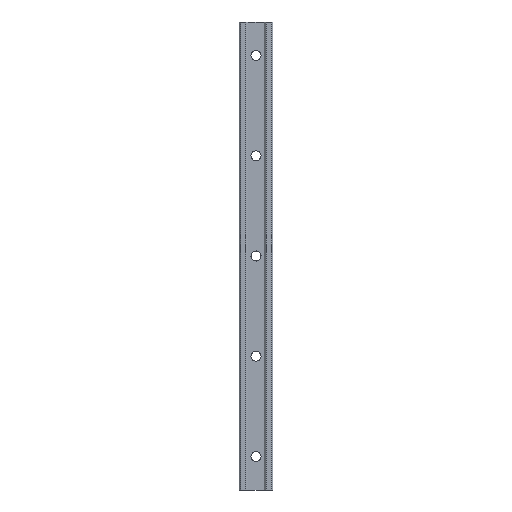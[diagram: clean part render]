
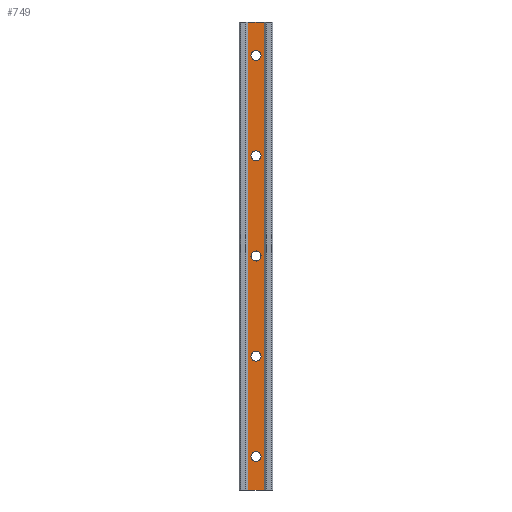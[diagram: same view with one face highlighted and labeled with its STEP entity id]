
A CAD part, front view. The second image highlights one B-rep face of the part: STEP entity #749.
In plain terms, the highlighted planar face has unit normal (0, -1, 0).
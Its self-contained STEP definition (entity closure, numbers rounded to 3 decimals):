
#1 = CARTESIAN_POINT ( 'NONE',  ( -5., 1., -140. ) ) ;
#13 = CARTESIAN_POINT ( 'NONE',  ( 0., 1., -60. ) ) ;
#26 = VERTEX_POINT ( 'NONE', #59 ) ;
#27 = CARTESIAN_POINT ( 'NONE',  ( 0., 1., 120. ) ) ;
#38 = EDGE_LOOP ( 'NONE', ( #732, #998 ) ) ;
#59 = CARTESIAN_POINT ( 'NONE',  ( 5., 1., -140. ) ) ;
#62 = CARTESIAN_POINT ( 'NONE',  ( -5., 1., 140. ) ) ;
#68 = VERTEX_POINT ( 'NONE', #422 ) ;
#98 = DIRECTION ( 'NONE',  ( 0., 1., 0. ) ) ;
#112 = DIRECTION ( 'NONE',  ( 0., 1., 0. ) ) ;
#116 = FACE_BOUND ( 'NONE', #1449, .T. ) ;
#117 = ORIENTED_EDGE ( 'NONE', *, *, #221, .T. ) ;
#127 = EDGE_CURVE ( 'NONE', #1127, #1484, #1586, .T. ) ;
#130 = CARTESIAN_POINT ( 'NONE',  ( 0., 1., -117. ) ) ;
#133 = DIRECTION ( 'NONE',  ( 0., 0., 1. ) ) ;
#146 = EDGE_CURVE ( 'NONE', #1486, #1161, #246, .T. ) ;
#155 = LINE ( 'NONE', #1340, #1100 ) ;
#158 = ORIENTED_EDGE ( 'NONE', *, *, #499, .T. ) ;
#189 = CARTESIAN_POINT ( 'NONE',  ( 0., 1., 0. ) ) ;
#212 = CARTESIAN_POINT ( 'NONE',  ( 0., 1., 120. ) ) ;
#213 = FACE_BOUND ( 'NONE', #38, .T. ) ;
#221 = EDGE_CURVE ( 'NONE', #68, #782, #1324, .T. ) ;
#223 = DIRECTION ( 'NONE',  ( 0., 0., 1. ) ) ;
#224 = ORIENTED_EDGE ( 'NONE', *, *, #511, .T. ) ;
#234 = FACE_BOUND ( 'NONE', #1617, .T. ) ;
#240 = DIRECTION ( 'NONE',  ( 0., 0., 1. ) ) ;
#246 = CIRCLE ( 'NONE', #477, 3. ) ;
#253 = EDGE_CURVE ( 'NONE', #1484, #1127, #439, .T. ) ;
#278 = AXIS2_PLACEMENT_3D ( 'NONE', #653, #1001, #223 ) ;
#280 = FACE_BOUND ( 'NONE', #1321, .T. ) ;
#282 = EDGE_LOOP ( 'NONE', ( #1214, #607, #677, #158 ) ) ;
#327 = CARTESIAN_POINT ( 'NONE',  ( 0., 1., -60. ) ) ;
#352 = EDGE_CURVE ( 'NONE', #1161, #1486, #992, .T. ) ;
#361 = AXIS2_PLACEMENT_3D ( 'NONE', #1080, #962, #1066 ) ;
#380 = AXIS2_PLACEMENT_3D ( 'NONE', #688, #1052, #542 ) ;
#393 = CARTESIAN_POINT ( 'NONE',  ( 0., 1., 60. ) ) ;
#401 = EDGE_CURVE ( 'NONE', #544, #1431, #673, .T. ) ;
#403 = CIRCLE ( 'NONE', #593, 3. ) ;
#404 = AXIS2_PLACEMENT_3D ( 'NONE', #393, #515, #133 ) ;
#411 = ORIENTED_EDGE ( 'NONE', *, *, #352, .T. ) ;
#422 = CARTESIAN_POINT ( 'NONE',  ( 0., 1., 123. ) ) ;
#431 = CARTESIAN_POINT ( 'NONE',  ( 0., 1., 3. ) ) ;
#439 = CIRCLE ( 'NONE', #750, 3. ) ;
#467 = DIRECTION ( 'NONE',  ( 0., 0., 1. ) ) ;
#477 = AXIS2_PLACEMENT_3D ( 'NONE', #189, #613, #1637 ) ;
#499 = EDGE_CURVE ( 'NONE', #26, #1385, #155, .T. ) ;
#511 = EDGE_CURVE ( 'NONE', #1431, #544, #672, .T. ) ;
#515 = DIRECTION ( 'NONE',  ( 0., 1., 0. ) ) ;
#516 = LINE ( 'NONE', #1, #811 ) ;
#529 = VERTEX_POINT ( 'NONE', #802 ) ;
#542 = DIRECTION ( 'NONE',  ( 0., 0., 1. ) ) ;
#544 = VERTEX_POINT ( 'NONE', #1335 ) ;
#555 = CIRCLE ( 'NONE', #1242, 3. ) ;
#559 = CIRCLE ( 'NONE', #404, 3. ) ;
#581 = EDGE_LOOP ( 'NONE', ( #117, #1063 ) ) ;
#583 = DIRECTION ( 'NONE',  ( 0., 1., 0. ) ) ;
#593 = AXIS2_PLACEMENT_3D ( 'NONE', #947, #1453, #1438 ) ;
#607 = ORIENTED_EDGE ( 'NONE', *, *, #848, .F. ) ;
#613 = DIRECTION ( 'NONE',  ( 0., 1., 0. ) ) ;
#620 = DIRECTION ( 'NONE',  ( 0., 0., 1. ) ) ;
#653 = CARTESIAN_POINT ( 'NONE',  ( 0., 1., 0. ) ) ;
#672 = CIRCLE ( 'NONE', #361, 3. ) ;
#673 = CIRCLE ( 'NONE', #380, 3. ) ;
#677 = ORIENTED_EDGE ( 'NONE', *, *, #1169, .F. ) ;
#688 = CARTESIAN_POINT ( 'NONE',  ( 0., 1., -120. ) ) ;
#692 = VERTEX_POINT ( 'NONE', #1627 ) ;
#714 = DIRECTION ( 'NONE',  ( 0., 0., 1. ) ) ;
#732 = ORIENTED_EDGE ( 'NONE', *, *, #1032, .T. ) ;
#749 = ADVANCED_FACE ( 'NONE', ( #213, #280, #234, #116, #780, #1281 ), #879, .F. ) ;
#750 = AXIS2_PLACEMENT_3D ( 'NONE', #13, #98, #620 ) ;
#763 = ORIENTED_EDGE ( 'NONE', *, *, #401, .T. ) ;
#767 = AXIS2_PLACEMENT_3D ( 'NONE', #1261, #112, #1524 ) ;
#780 = FACE_BOUND ( 'NONE', #581, .T. ) ;
#782 = VERTEX_POINT ( 'NONE', #1020 ) ;
#802 = CARTESIAN_POINT ( 'NONE',  ( -5., 1., -140. ) ) ;
#811 = VECTOR ( 'NONE', #240, 1000. ) ;
#848 = EDGE_CURVE ( 'NONE', #529, #1542, #516, .T. ) ;
#879 = PLANE ( 'NONE',  #767 ) ;
#890 = EDGE_CURVE ( 'NONE', #782, #68, #555, .T. ) ;
#902 = EDGE_CURVE ( 'NONE', #692, #1267, #559, .T. ) ;
#916 = AXIS2_PLACEMENT_3D ( 'NONE', #212, #993, #467 ) ;
#921 = DIRECTION ( 'NONE',  ( 0., 1., 0. ) ) ;
#947 = CARTESIAN_POINT ( 'NONE',  ( 0., 1., 60. ) ) ;
#952 = ORIENTED_EDGE ( 'NONE', *, *, #127, .T. ) ;
#959 = DIRECTION ( 'NONE',  ( -1., 0., 0. ) ) ;
#962 = DIRECTION ( 'NONE',  ( 0., 1., 0. ) ) ;
#967 = CARTESIAN_POINT ( 'NONE',  ( -5., 1., 140. ) ) ;
#982 = LINE ( 'NONE', #1465, #1568 ) ;
#992 = CIRCLE ( 'NONE', #278, 3. ) ;
#993 = DIRECTION ( 'NONE',  ( 0., 1., 0. ) ) ;
#998 = ORIENTED_EDGE ( 'NONE', *, *, #902, .T. ) ;
#1001 = DIRECTION ( 'NONE',  ( 0., 1., 0. ) ) ;
#1020 = CARTESIAN_POINT ( 'NONE',  ( 0., 1., 117. ) ) ;
#1023 = VECTOR ( 'NONE', #1200, 1000. ) ;
#1032 = EDGE_CURVE ( 'NONE', #1267, #692, #403, .T. ) ;
#1052 = DIRECTION ( 'NONE',  ( 0., 1., 0. ) ) ;
#1063 = ORIENTED_EDGE ( 'NONE', *, *, #890, .T. ) ;
#1066 = DIRECTION ( 'NONE',  ( 0., 0., 1. ) ) ;
#1080 = CARTESIAN_POINT ( 'NONE',  ( 0., 1., -120. ) ) ;
#1100 = VECTOR ( 'NONE', #1591, 1000. ) ;
#1103 = CARTESIAN_POINT ( 'NONE',  ( 0., 1., 63. ) ) ;
#1127 = VERTEX_POINT ( 'NONE', #1215 ) ;
#1152 = DIRECTION ( 'NONE',  ( 0., 0., 1. ) ) ;
#1153 = EDGE_CURVE ( 'NONE', #1385, #1542, #1154, .T. ) ;
#1154 = LINE ( 'NONE', #62, #1023 ) ;
#1161 = VERTEX_POINT ( 'NONE', #431 ) ;
#1169 = EDGE_CURVE ( 'NONE', #26, #529, #982, .T. ) ;
#1173 = ORIENTED_EDGE ( 'NONE', *, *, #146, .T. ) ;
#1189 = AXIS2_PLACEMENT_3D ( 'NONE', #327, #583, #714 ) ;
#1196 = CARTESIAN_POINT ( 'NONE',  ( 0., 1., -3. ) ) ;
#1200 = DIRECTION ( 'NONE',  ( -1., 0., 0. ) ) ;
#1214 = ORIENTED_EDGE ( 'NONE', *, *, #1153, .T. ) ;
#1215 = CARTESIAN_POINT ( 'NONE',  ( 0., 1., -57. ) ) ;
#1242 = AXIS2_PLACEMENT_3D ( 'NONE', #27, #921, #1152 ) ;
#1261 = CARTESIAN_POINT ( 'NONE',  ( -5., 1., -140. ) ) ;
#1267 = VERTEX_POINT ( 'NONE', #1103 ) ;
#1281 = FACE_OUTER_BOUND ( 'NONE', #282, .T. ) ;
#1321 = EDGE_LOOP ( 'NONE', ( #411, #1173 ) ) ;
#1324 = CIRCLE ( 'NONE', #916, 3. ) ;
#1335 = CARTESIAN_POINT ( 'NONE',  ( 0., 1., -123. ) ) ;
#1340 = CARTESIAN_POINT ( 'NONE',  ( 5., 1., -140. ) ) ;
#1355 = CARTESIAN_POINT ( 'NONE',  ( 0., 1., -63. ) ) ;
#1385 = VERTEX_POINT ( 'NONE', #1520 ) ;
#1431 = VERTEX_POINT ( 'NONE', #130 ) ;
#1438 = DIRECTION ( 'NONE',  ( 0., 0., 1. ) ) ;
#1449 = EDGE_LOOP ( 'NONE', ( #224, #763 ) ) ;
#1453 = DIRECTION ( 'NONE',  ( 0., 1., 0. ) ) ;
#1460 = ORIENTED_EDGE ( 'NONE', *, *, #253, .T. ) ;
#1465 = CARTESIAN_POINT ( 'NONE',  ( -5., 1., -140. ) ) ;
#1484 = VERTEX_POINT ( 'NONE', #1355 ) ;
#1486 = VERTEX_POINT ( 'NONE', #1196 ) ;
#1520 = CARTESIAN_POINT ( 'NONE',  ( 5., 1., 140. ) ) ;
#1524 = DIRECTION ( 'NONE',  ( 0., 0., 1. ) ) ;
#1542 = VERTEX_POINT ( 'NONE', #967 ) ;
#1568 = VECTOR ( 'NONE', #959, 1000. ) ;
#1586 = CIRCLE ( 'NONE', #1189, 3. ) ;
#1591 = DIRECTION ( 'NONE',  ( 0., 0., 1. ) ) ;
#1617 = EDGE_LOOP ( 'NONE', ( #952, #1460 ) ) ;
#1627 = CARTESIAN_POINT ( 'NONE',  ( 0., 1., 57. ) ) ;
#1637 = DIRECTION ( 'NONE',  ( 0., 0., 1. ) ) ;
